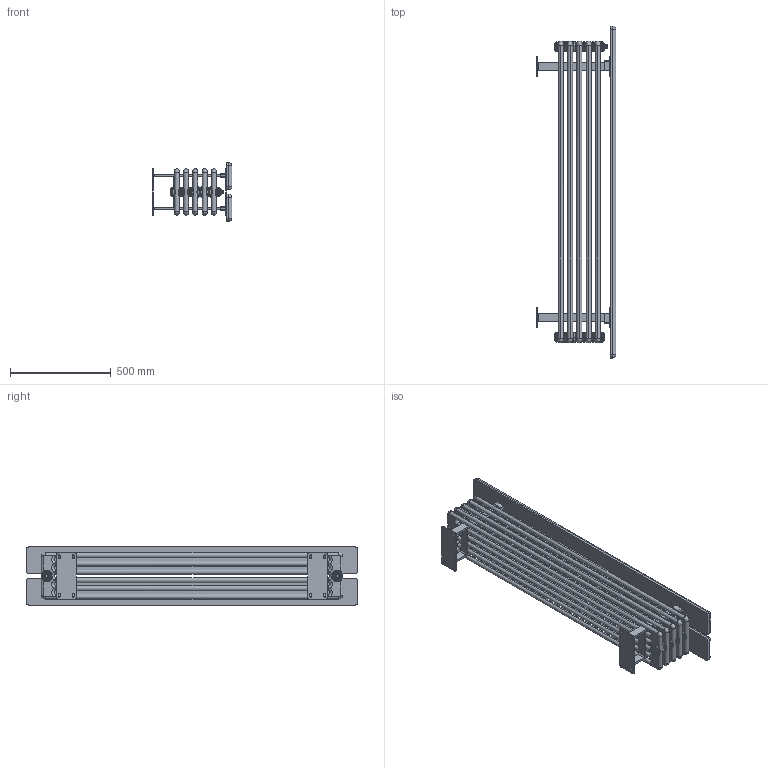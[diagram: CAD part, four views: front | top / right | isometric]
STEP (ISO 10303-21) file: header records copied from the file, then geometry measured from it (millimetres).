
FILE_DESCRIPTION((''),'2;1');
FILE_NAME('3541706109496_3D_SITO_ASM','2024-04-17T08:53:28',('PTC3'),(''),'CREO PARAMETRIC BY PTC INC, 2023092','CREO PARAMETRIC BY PTC INC, 2023092','');
FILE_SCHEMA(('AUTOMOTIVE_DESIGN { 1 0 10303 214 1 1 1 1 }'));
Length unit declared in the file: millimetre
Products named in the file (15): 2661700500232_3D_SITO; 1006381480001_3D_SITO; 1006381480002_3D_SITO; 1011181480002_3D_SITO; 1041001240002; 1470210010240; 1670210730008_AF0; 1670210730008_AF1; 1670210730060_AF0; 1825210080063_ASM; 147021001024_3D_SITO; 1874210010009_3D_SITO; 1825210000065_3D_SITO_ASM; 1900530000002; 3541706109496_3D_SITO_ASM
Assembly tree (23 placements, depth 3):
  3541706109496_3D_SITO_ASM
    2661700500232_3D_SITO  x5
    1006381480001_3D_SITO  x2
    1006381480002_3D_SITO
    1011181480002_3D_SITO
    1041001240002
    1825210080063_ASM  x2
      1470210010240
      1670210730008_AF0
      1670210730008_AF1
      1670210730060_AF0
    1825210000065_3D_SITO_ASM  x2
      147021001024_3D_SITO
      1874210010009_3D_SITO
    1900530000002  x2
Bounding box: 397 x 1650 x 290 mm (x, y, z)
Volume: 36082621.4 mm3; surface area: 5066427.2 mm2
Topology: 26 solids, 47 shells, 1568 faces, 4305 edges, 2784 vertices
Faces by surface type: plane 876, cylinder 294, torus 214, bspline 70, extrusion 64, cone 30, sphere 20
Entity records: 45026 total; most frequent: CARTESIAN_POINT 8659, DIRECTION 5110, ORIENTED_EDGE 4978, EDGE_CURVE 2519, AXIS2_PLACEMENT_3D 1695, VECTOR 1677, LINE 1629, VERTEX_POINT 1625
